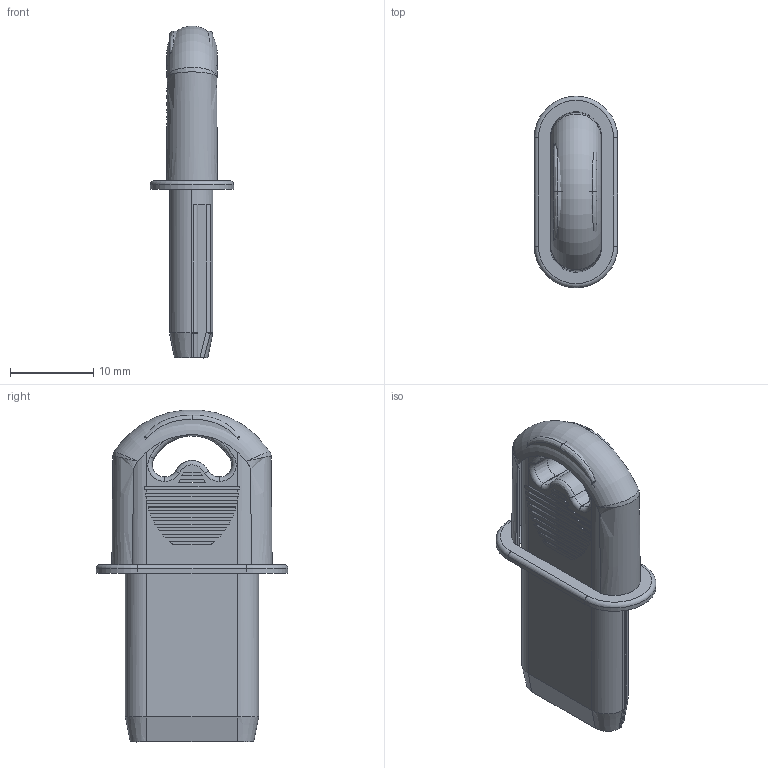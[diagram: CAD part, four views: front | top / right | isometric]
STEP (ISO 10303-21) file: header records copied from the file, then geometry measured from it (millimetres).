
FILE_DESCRIPTION((''),'2;1');
FILE_NAME('PK-SEQ-SK-C-LOGISTICK','2006-12-19T',('summne01'),(''),'PRO/ENGINEER BY PARAMETRIC TECHNOLOGY CORPORATION, 2006320','PRO/ENGINEER BY PARAMETRIC TECHNOLOGY CORPORATION, 2006320','');
FILE_SCHEMA(('CONFIG_CONTROL_DESIGN'));
Length unit declared in the file: millimetre
Products named in the file (1): PK-SEQ-SK-C-LOGISTICK
Bounding box: 10 x 23 x 39.82 mm (x, y, z)
Surface area: 2408.8 mm2 (no closed solid volume)
Topology: 0 solids, 16 shells, 141 faces, 588 edges, 444 vertices
Faces by surface type: plane 66, bspline 25, cone 22, cylinder 19, torus 7, extrusion 2
Entity records: 8381 total; most frequent: CARTESIAN_POINT 4046, ORIENTED_EDGE 832, DIRECTION 717, EDGE_CURVE 588, VERTEX_POINT 444, VECTOR 315, LINE 313, AXIS2_PLACEMENT_3D 201
